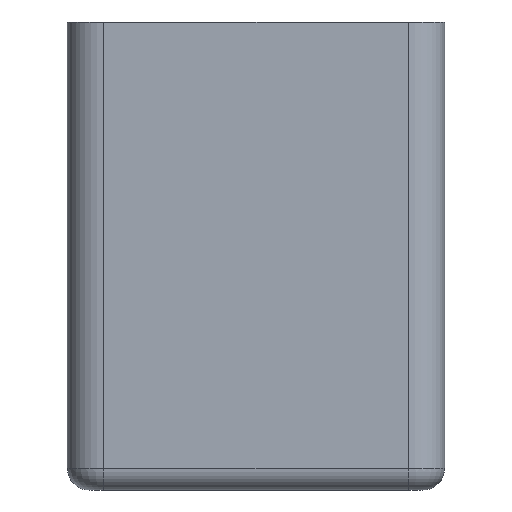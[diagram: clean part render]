
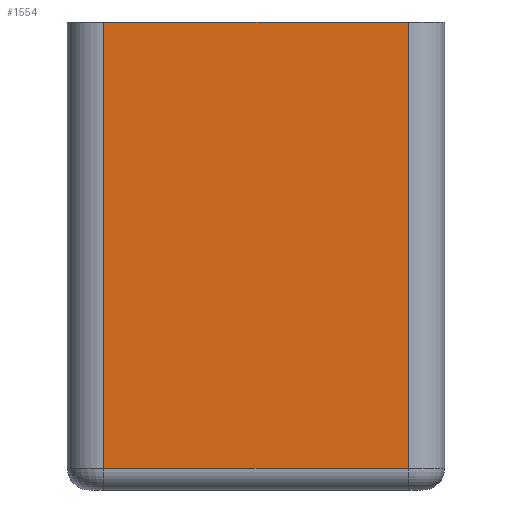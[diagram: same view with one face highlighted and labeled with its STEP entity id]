
A CAD part, front view. The second image highlights one B-rep face of the part: STEP entity #1554.
In plain terms, the highlighted planar face has unit normal (0, -1, 0).
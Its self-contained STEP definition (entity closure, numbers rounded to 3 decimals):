
#11 = VERTEX_POINT ( 'NONE', #1137 ) ;
#30 = VECTOR ( 'NONE', #935, 1000. ) ;
#225 = DIRECTION ( 'NONE',  ( 1., 0., 0. ) ) ;
#389 = LINE ( 'NONE', #896, #1357 ) ;
#431 = CARTESIAN_POINT ( 'NONE',  ( -21., -26., 81.5 ) ) ;
#474 = ORIENTED_EDGE ( 'NONE', *, *, #1375, .T. ) ;
#592 = CARTESIAN_POINT ( 'NONE',  ( -21., -26., 64.5 ) ) ;
#643 = VERTEX_POINT ( 'NONE', #592 ) ;
#686 = VECTOR ( 'NONE', #225, 1000. ) ;
#690 = EDGE_CURVE ( 'NONE', #643, #11, #978, .T. ) ;
#697 = CARTESIAN_POINT ( 'NONE',  ( 21., -26., 3. ) ) ;
#728 = EDGE_CURVE ( 'NONE', #1029, #1252, #938, .T. ) ;
#732 = DIRECTION ( 'NONE',  ( 0., 0., 1. ) ) ;
#885 = ORIENTED_EDGE ( 'NONE', *, *, #1332, .T. ) ;
#896 = CARTESIAN_POINT ( 'NONE',  ( 21., -26., 81.5 ) ) ;
#920 = DIRECTION ( 'NONE',  ( 1., 0., 0. ) ) ;
#935 = DIRECTION ( 'NONE',  ( 0., 0., -1. ) ) ;
#938 = LINE ( 'NONE', #697, #686 ) ;
#945 = CARTESIAN_POINT ( 'NONE',  ( -21., -26., 3. ) ) ;
#978 = LINE ( 'NONE', #1298, #1586 ) ;
#979 = AXIS2_PLACEMENT_3D ( 'NONE', #1481, #1487, #732 ) ;
#1029 = VERTEX_POINT ( 'NONE', #945 ) ;
#1030 = CARTESIAN_POINT ( 'NONE',  ( 21., -26., 3. ) ) ;
#1098 = FACE_OUTER_BOUND ( 'NONE', #1264, .T. ) ;
#1137 = CARTESIAN_POINT ( 'NONE',  ( 21., -26., 64.5 ) ) ;
#1252 = VERTEX_POINT ( 'NONE', #1030 ) ;
#1264 = EDGE_LOOP ( 'NONE', ( #1592, #474, #1394, #885 ) ) ;
#1298 = CARTESIAN_POINT ( 'NONE',  ( -26., -26., 64.5 ) ) ;
#1332 = EDGE_CURVE ( 'NONE', #1252, #11, #389, .T. ) ;
#1339 = PLANE ( 'NONE',  #979 ) ;
#1357 = VECTOR ( 'NONE', #1409, 1000. ) ;
#1375 = EDGE_CURVE ( 'NONE', #643, #1029, #1458, .T. ) ;
#1394 = ORIENTED_EDGE ( 'NONE', *, *, #728, .T. ) ;
#1409 = DIRECTION ( 'NONE',  ( 0., 0., 1. ) ) ;
#1458 = LINE ( 'NONE', #431, #30 ) ;
#1481 = CARTESIAN_POINT ( 'NONE',  ( -26., -26., 81.5 ) ) ;
#1487 = DIRECTION ( 'NONE',  ( 0., 1., 0. ) ) ;
#1554 = ADVANCED_FACE ( 'NONE', ( #1098 ), #1339, .F. ) ;
#1586 = VECTOR ( 'NONE', #920, 1000. ) ;
#1592 = ORIENTED_EDGE ( 'NONE', *, *, #690, .F. ) ;
